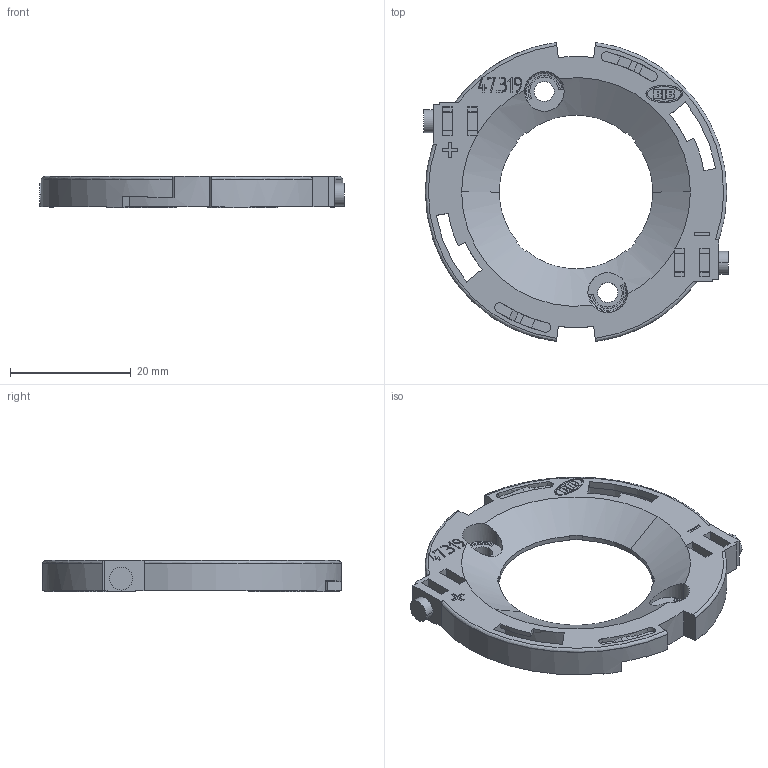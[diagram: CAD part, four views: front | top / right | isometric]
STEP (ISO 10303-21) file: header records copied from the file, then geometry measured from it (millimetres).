
FILE_DESCRIPTION(('CAx-IF Rec.Pracs.---Model Styling and Organization---1.2---2011-12-15','CAx-IF Rec.Pracs.---Geometric and Assembly Validation Properties---4.1---2014-06-16','CAx-IF Rec.Pracs.---PMI Polyline Presentation---2.0---2013-05-24'),'2;1');
FILE_NAME('01TYA3CY07.stp','2018-06-11T11:39:52+02:00',(''),(''),'STEP Interface 4.1 Sp1 by CT CoreTechnologie','3D_Evolution4.1 Sp1 by CT CoreTechnologie','');
FILE_SCHEMA(('AUTOMOTIVE_DESIGN { 1 0 10303 214 1 1 1 1 }'));
Length unit declared in the file: millimetre
Products named in the file (1): 01TYA3CY07
Bounding box: 50.6 x 49.57 x 5.25 mm (x, y, z)
Volume: 3431.9 mm3; surface area: 6104.6 mm2
Topology: 3 solids, 3 shells, 587 faces, 1655 edges, 1099 vertices
Faces by surface type: plane 399, cylinder 122, bspline 66
Entity records: 45812 total; most frequent: CARTESIAN_POINT 6274, PROPERTY_DEFINITION 3332, ORIENTED_EDGE 3310, DIRECTION 3031, SHAPE_REPRESENTATION 1667, SHAPE_DEFINITION_REPRESENTATION 1667, REPRESENTATION 1666, SHAPE_ASPECT 1666
